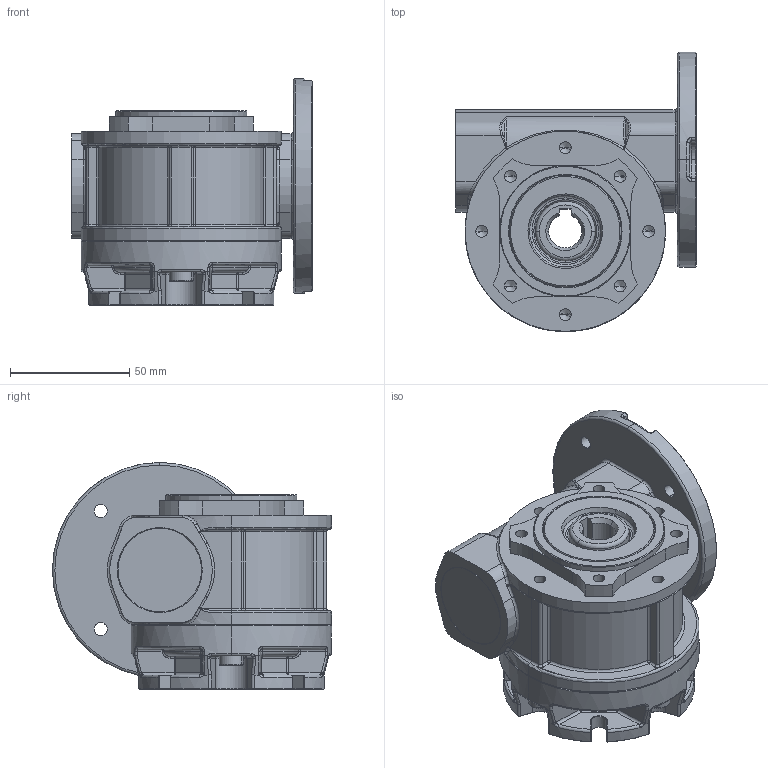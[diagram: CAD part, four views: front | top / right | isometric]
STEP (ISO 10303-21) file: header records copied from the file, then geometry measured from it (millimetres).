
FILE_DESCRIPTION (( 'STEP AP214' ), '1' );
FILE_NAME ('Sestava MRT30A-FF.STEP', '2007-06-25T11:01:14', ( '' ), ( '' ), 'SwSTEP 2.0', 'SolidWorks 2004146', '' );
FILE_SCHEMA (( 'AUTOMOTIVE_DESIGN' ));
Length unit declared in the file: millimetre
Products named in the file (15): vicko nbr 35_Výchozí; CSN 022931_35_Kroužek 35 ÈSN 022931; FFPRIRUBA_Výchozí; Sestava MRT30A-FF; Snekove ozubeni 002LAM5B; Snekove ozubeni 002PILIB; skrin_30_63_Výchozí; DIN 7984_M6x16_Šroub DIN 7984 - M6x20; DIN 3760-NB_A 25x47x7_Tìsnìní A 25x47x7 DIN 3760-NB; CSN 024630_SKF 6005_Ložisko SKF 6005 ÈSN 024630; naboj_Výchozí; CSN 024630_SKF 6300_Ložisko SKF 6300 ÈSN 024630; DIN 3760-NB_AS 20x30x7_Tìsnìní AS 20x30x7 DIN 3760-NB; DIN 5405 - K20X26X17 - 18,SI,AC,18; CSN 022931_47_Kroužek 47 ÈSN 022931
Assembly tree (20 placements, depth 2):
  Sestava MRT30A-FF
    Snekove ozubeni 002PILIB
    DIN 3760-NB_A 25x47x7_Tìsnìní A 25x47x7 DIN 3760-NB  x2
    FFPRIRUBA_Výchozí
    skrin_30_63_Výchozí
    DIN 7984_M6x16_Šroub DIN 7984 - M6x20  x4
    CSN 022931_47_Kroužek 47 ÈSN 022931  x2
    CSN 024630_SKF 6005_Ložisko SKF 6005 ÈSN 024630  x2
    vicko nbr 35_Výchozí
    DIN 3760-NB_AS 20x30x7_Tìsnìní AS 20x30x7 DIN 3760-NB
    naboj_Výchozí
    CSN 022931_35_Kroužek 35 ÈSN 022931
    DIN 5405 - K20X26X17 - 18,SI,AC,18
    Snekove ozubeni 002LAM5B
    CSN 024630_SKF 6300_Ložisko SKF 6300 ÈSN 024630
Bounding box: 101 x 117 x 95 mm (x, y, z)
Volume: 345319.5 mm3; surface area: 160187.6 mm2
Topology: 20 solids, 20 shells, 1819 faces, 4751 edges, 2888 vertices
Faces by surface type: cylinder 573, cone 366, plane 337, torus 306, bspline 139, sphere 98
Entity records: 98626 total; most frequent: CARTESIAN_POINT 60205, ORIENTED_EDGE 8104, DIRECTION 7539, EDGE_CURVE 4052, AXIS2_PLACEMENT_3D 3296, VERTEX_POINT 2487, CIRCLE 1797, EDGE_LOOP 1715
